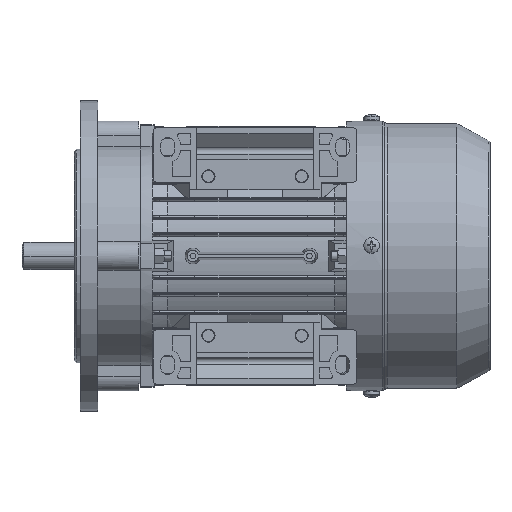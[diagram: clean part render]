
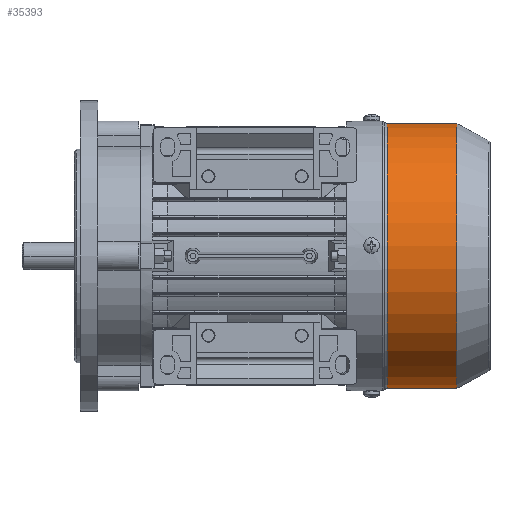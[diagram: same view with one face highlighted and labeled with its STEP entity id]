
A CAD part, front view. The second image highlights one B-rep face of the part: STEP entity #35393.
In plain terms, the highlighted cylindrical face has radius 68.3 mm (diameter 136.6 mm), a partial arc.
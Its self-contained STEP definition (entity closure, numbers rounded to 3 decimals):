
#1001 = CARTESIAN_POINT ( 'NONE',  ( 78.325, -12.121, -68.112 ) ) ;
#1272 = CIRCLE ( 'NONE', #69846, 68.3 ) ;
#13598 = EDGE_CURVE ( 'NONE', #35201, #104943, #35507, .T. ) ;
#18439 = DIRECTION ( 'NONE',  ( -1., 0., 0. ) ) ;
#20379 = LINE ( 'NONE', #116080, #99066 ) ;
#22196 = CARTESIAN_POINT ( 'NONE',  ( 78.325, -7.056, 0. ) ) ;
#24627 = FACE_OUTER_BOUND ( 'NONE', #120226, .T. ) ;
#24880 = EDGE_CURVE ( 'NONE', #53380, #105172, #20379, .T. ) ;
#30253 = EDGE_CURVE ( 'NONE', #104943, #105172, #82049, .T. ) ;
#35201 = VERTEX_POINT ( 'NONE', #113680 ) ;
#35393 = ADVANCED_FACE ( 'NONE', ( #24627 ), #73116, .T. ) ;
#35507 = LINE ( 'NONE', #110314, #93966 ) ;
#43097 = CARTESIAN_POINT ( 'NONE',  ( 57.333, -7.056, 0. ) ) ;
#53380 = VERTEX_POINT ( 'NONE', #95213 ) ;
#58927 = DIRECTION ( 'NONE',  ( 0., 0.074, 0.997 ) ) ;
#59648 = DIRECTION ( 'NONE',  ( -1., 0., 0. ) ) ;
#60548 = AXIS2_PLACEMENT_3D ( 'NONE', #43097, #91490, #101301 ) ;
#68247 = DIRECTION ( 'NONE',  ( -1., 0., 0. ) ) ;
#69846 = AXIS2_PLACEMENT_3D ( 'NONE', #102492, #18439, #58927 ) ;
#73116 = CYLINDRICAL_SURFACE ( 'NONE', #60548, 68.3 ) ;
#76189 = AXIS2_PLACEMENT_3D ( 'NONE', #22196, #59648, #89056 ) ;
#78929 = ORIENTED_EDGE ( 'NONE', *, *, #13598, .F. ) ;
#79028 = ORIENTED_EDGE ( 'NONE', *, *, #30253, .F. ) ;
#82049 = CIRCLE ( 'NONE', #76189, 68.3 ) ;
#83027 = CARTESIAN_POINT ( 'NONE',  ( 78.325, -1.992, 68.112 ) ) ;
#89056 = DIRECTION ( 'NONE',  ( 0., 0.074, 0.997 ) ) ;
#90670 = ORIENTED_EDGE ( 'NONE', *, *, #24880, .T. ) ;
#91490 = DIRECTION ( 'NONE',  ( -1., 0., 0. ) ) ;
#93966 = VECTOR ( 'NONE', #101105, 1000. ) ;
#95213 = CARTESIAN_POINT ( 'NONE',  ( 114.333, -1.992, 68.112 ) ) ;
#99066 = VECTOR ( 'NONE', #68247, 1000. ) ;
#101105 = DIRECTION ( 'NONE',  ( -1., 0., 0. ) ) ;
#101301 = DIRECTION ( 'NONE',  ( 0., 0.074, 0.997 ) ) ;
#101355 = EDGE_CURVE ( 'NONE', #35201, #53380, #1272, .T. ) ;
#102492 = CARTESIAN_POINT ( 'NONE',  ( 114.333, -7.056, 0. ) ) ;
#104943 = VERTEX_POINT ( 'NONE', #1001 ) ;
#105172 = VERTEX_POINT ( 'NONE', #83027 ) ;
#110314 = CARTESIAN_POINT ( 'NONE',  ( 57.333, -12.121, -68.112 ) ) ;
#111826 = ORIENTED_EDGE ( 'NONE', *, *, #101355, .T. ) ;
#113680 = CARTESIAN_POINT ( 'NONE',  ( 114.333, -12.121, -68.112 ) ) ;
#116080 = CARTESIAN_POINT ( 'NONE',  ( 57.333, -1.992, 68.112 ) ) ;
#120226 = EDGE_LOOP ( 'NONE', ( #78929, #111826, #90670, #79028 ) ) ;
